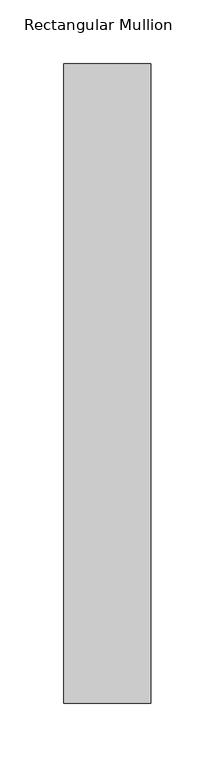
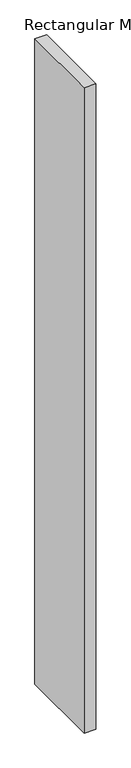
"""IFC4 building model written with IfcOpenShell, lengths in millimetres: member geometry, Rectangular Mullion : DucoSun Cubic Design louvre 500."""

from ifc_helpers import new_model, si_unit, frame, origin, place, context, project, spatial, polyline, outline, extrude, source, transform, mapped, element, save


def rectangular_mullion_d6f15889(model_context):
    return source(origin(), model_context, "Body", "SweptSolid", [
        extrude(outline(polyline([(-68.0, -500.0), (-68.0, 0.0), (0.0, 0.0), (0.0, -500.0), (-68.0, -500.0)])), frame((0.0, 0.0, -4000.0), z_axis=(0.0, 0.0, 1.0), x_axis=(1.0, 0.0, 0.0)), (0.0, 0.0, 1.0), 4000.0),
    ])


if __name__ == "__main__":
    model = new_model("IFC4")
    model_context = context("Model", 3, world=origin())
    ifc_project = project(units=[si_unit("LENGTHUNIT", "METRE", prefix="MILLI")], contexts=[model_context])
    site = spatial("IfcSite", under=ifc_project)
    building = spatial("IfcBuilding", under=site)
    placement = place(None, origin())
    rectangular_mullion_shape = rectangular_mullion_d6f15889(model_context)
    element("IfcMember", 1, ObjectType="Rectangular Mullion : DucoSun Cubic Design louvre 500", at=placement, inside=building, context=model_context, shape_type="MappedRepresentation", body=[
        mapped(rectangular_mullion_shape, transform((0.0, 0.0, 0.0), x_axis=(1.0, 0.0, 0.0), y_axis=(0.0, 1.0, 0.0), z_axis=(0.0, 0.0, 1.0))),
    ])
    save(model, "model.ifc")
